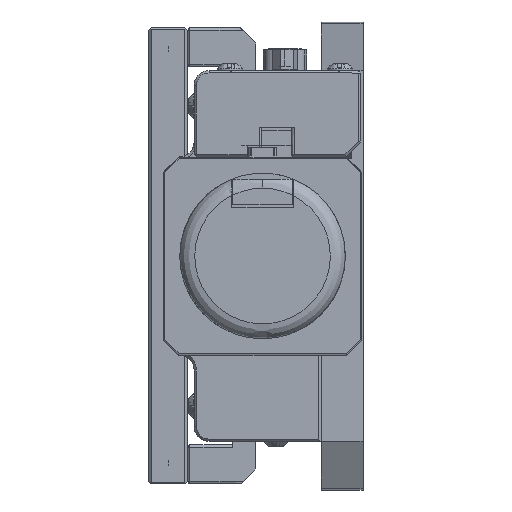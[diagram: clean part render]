
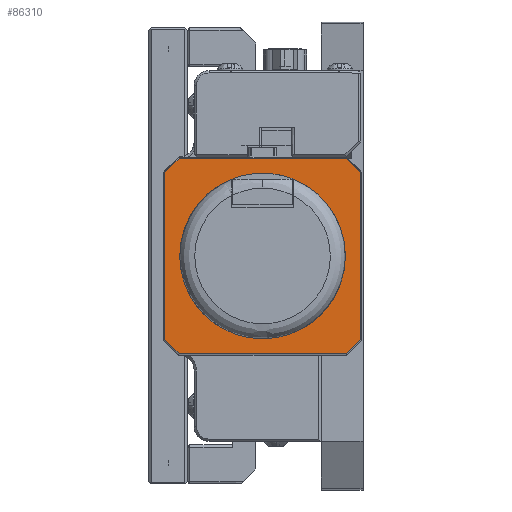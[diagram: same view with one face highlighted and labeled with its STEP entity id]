
A CAD part, left-side view. The second image highlights one B-rep face of the part: STEP entity #86310.
In plain terms, the highlighted planar face has unit normal (-1, 0, 0).
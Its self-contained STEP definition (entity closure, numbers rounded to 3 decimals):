
#616 = DIRECTION ( 'NONE',  ( 0., -0.707, -0.707 ) ) ;
#1469 = CARTESIAN_POINT ( 'NONE',  ( -120.65, 2.085, 58.431 ) ) ;
#1712 = LINE ( 'NONE', #25582, #37437 ) ;
#3178 = DIRECTION ( 'NONE',  ( 0., 0., 1. ) ) ;
#6182 = CARTESIAN_POINT ( 'NONE',  ( -120.65, 0.572, 60.198 ) ) ;
#6514 = DIRECTION ( 'NONE',  ( 0., 0., -1. ) ) ;
#6648 = ORIENTED_EDGE ( 'NONE', *, *, #51962, .F. ) ;
#7346 = AXIS2_PLACEMENT_3D ( 'NONE', #29649, #43428, #3178 ) ;
#7403 = CARTESIAN_POINT ( 'NONE',  ( -120.65, 41.974, 21.568 ) ) ;
#9257 = LINE ( 'NONE', #10381, #81055 ) ;
#10218 = CARTESIAN_POINT ( 'NONE',  ( -120.65, 41.974, 56.918 ) ) ;
#10362 = DIRECTION ( 'NONE',  ( 0., 0.707, -0.707 ) ) ;
#10381 = CARTESIAN_POINT ( 'NONE',  ( -120.65, -18.87, 41.01 ) ) ;
#11873 = ORIENTED_EDGE ( 'NONE', *, *, #51598, .F. ) ;
#15059 = DIRECTION ( 'NONE',  ( 0., 1., 0. ) ) ;
#15437 = CARTESIAN_POINT ( 'NONE',  ( -120.65, 0.318, 18.542 ) ) ;
#17718 = VECTOR ( 'NONE', #15059, 1000. ) ;
#18806 = CARTESIAN_POINT ( 'NONE',  ( -120.65, 38.947, 18.542 ) ) ;
#19405 = ORIENTED_EDGE ( 'NONE', *, *, #52354, .F. ) ;
#20186 = CARTESIAN_POINT ( 'NONE',  ( -120.65, 0.572, 56.918 ) ) ;
#21211 = CARTESIAN_POINT ( 'NONE',  ( -120.65, 0.572, 21.568 ) ) ;
#22842 = VERTEX_POINT ( 'NONE', #10218 ) ;
#25252 = VERTEX_POINT ( 'NONE', #69049 ) ;
#25519 = DIRECTION ( 'NONE',  ( 0., 0.707, 0.707 ) ) ;
#25582 = CARTESIAN_POINT ( 'NONE',  ( -120.65, 40.46, 20.055 ) ) ;
#26723 = VERTEX_POINT ( 'NONE', #20186 ) ;
#29110 = LINE ( 'NONE', #51102, #31200 ) ;
#29649 = CARTESIAN_POINT ( 'NONE',  ( -120.65, 0.318, 60.198 ) ) ;
#29663 = EDGE_LOOP ( 'NONE', ( #11873, #47524, #6648, #55030, #80645, #19405, #37277, #63717 ) ) ;
#31200 = VECTOR ( 'NONE', #51393, 1000. ) ;
#34350 = VERTEX_POINT ( 'NONE', #81501 ) ;
#35361 = LINE ( 'NONE', #66441, #87197 ) ;
#35442 = LINE ( 'NONE', #15437, #17718 ) ;
#36437 = VECTOR ( 'NONE', #6514, 1000. ) ;
#37277 = ORIENTED_EDGE ( 'NONE', *, *, #52362, .F. ) ;
#37437 = VECTOR ( 'NONE', #25519, 1000. ) ;
#37450 = LINE ( 'NONE', #68336, #71295 ) ;
#38293 = VERTEX_POINT ( 'NONE', #54259 ) ;
#39015 = FACE_OUTER_BOUND ( 'NONE', #29663, .T. ) ;
#43428 = DIRECTION ( 'NONE',  ( -1., 0., 0. ) ) ;
#43825 = VECTOR ( 'NONE', #616, 1000. ) ;
#46964 = VERTEX_POINT ( 'NONE', #7403 ) ;
#47524 = ORIENTED_EDGE ( 'NONE', *, *, #51839, .F. ) ;
#51102 = CARTESIAN_POINT ( 'NONE',  ( -120.65, 41.974, 18.288 ) ) ;
#51393 = DIRECTION ( 'NONE',  ( 0., 0., 1. ) ) ;
#51598 = EDGE_CURVE ( 'NONE', #60210, #46964, #1712, .T. ) ;
#51839 = EDGE_CURVE ( 'NONE', #25252, #60210, #35442, .T. ) ;
#51962 = EDGE_CURVE ( 'NONE', #67434, #25252, #9257, .T. ) ;
#52091 = EDGE_CURVE ( 'NONE', #26723, #67434, #54419, .T. ) ;
#52227 = EDGE_CURVE ( 'NONE', #38293, #26723, #79946, .T. ) ;
#52354 = EDGE_CURVE ( 'NONE', #34350, #38293, #37450, .T. ) ;
#52362 = EDGE_CURVE ( 'NONE', #22842, #34350, #35361, .T. ) ;
#52488 = EDGE_CURVE ( 'NONE', #46964, #22842, #29110, .T. ) ;
#54259 = CARTESIAN_POINT ( 'NONE',  ( -120.65, 3.598, 59.944 ) ) ;
#54419 = LINE ( 'NONE', #6182, #36437 ) ;
#55030 = ORIENTED_EDGE ( 'NONE', *, *, #52091, .F. ) ;
#60210 = VERTEX_POINT ( 'NONE', #18806 ) ;
#63717 = ORIENTED_EDGE ( 'NONE', *, *, #52488, .F. ) ;
#66153 = DIRECTION ( 'NONE',  ( 0., -0.707, 0.707 ) ) ;
#66441 = CARTESIAN_POINT ( 'NONE',  ( -120.65, 19.505, 79.386 ) ) ;
#67434 = VERTEX_POINT ( 'NONE', #21211 ) ;
#68223 = DIRECTION ( 'NONE',  ( 0., -1., 0. ) ) ;
#68336 = CARTESIAN_POINT ( 'NONE',  ( -120.65, 0.318, 59.944 ) ) ;
#69049 = CARTESIAN_POINT ( 'NONE',  ( -120.65, 3.598, 18.542 ) ) ;
#71295 = VECTOR ( 'NONE', #68223, 1000. ) ;
#79946 = LINE ( 'NONE', #1469, #43825 ) ;
#80645 = ORIENTED_EDGE ( 'NONE', *, *, #52227, .F. ) ;
#81055 = VECTOR ( 'NONE', #10362, 1000. ) ;
#81501 = CARTESIAN_POINT ( 'NONE',  ( -120.65, 38.947, 59.944 ) ) ;
#84078 = PLANE ( 'NONE',  #7346 ) ;
#86310 = ADVANCED_FACE ( 'NONE', ( #39015 ), #84078, .T. ) ;
#87197 = VECTOR ( 'NONE', #66153, 1000. ) ;
